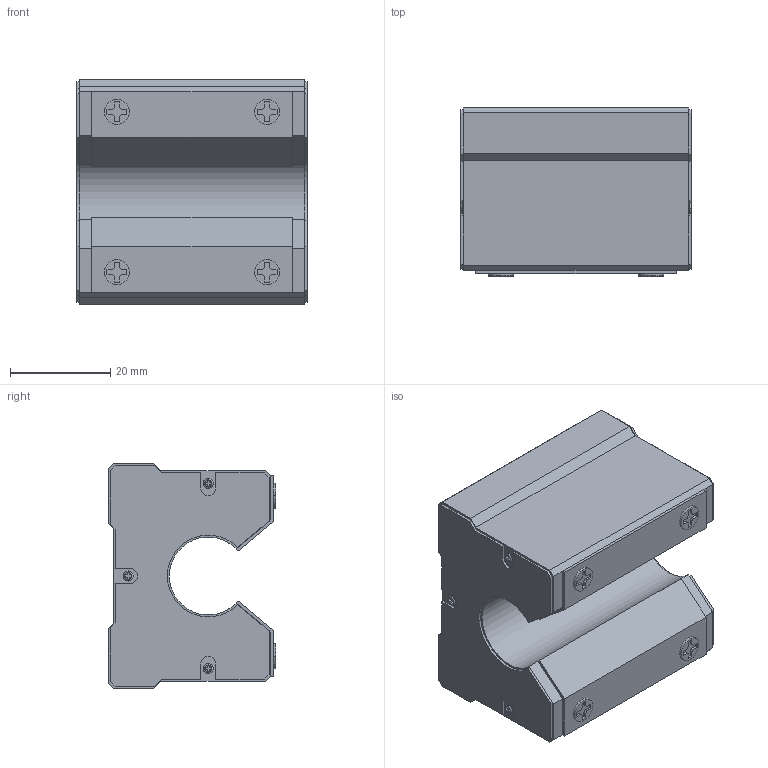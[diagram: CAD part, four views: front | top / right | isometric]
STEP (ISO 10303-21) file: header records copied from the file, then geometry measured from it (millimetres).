
FILE_DESCRIPTION (( 'STEP AP203' ), '1' );
FILE_NAME ('SME16UU.STEP', '2020-03-23T03:03:04', ( '' ), ( '' ), 'SwSTEP 2.0', 'SolidWorks 2017', '' );
FILE_SCHEMA (( 'CONFIG_CONTROL_DESIGN' ));
Length unit declared in the file: millimetre
Products named in the file (1): SME16UU
Bounding box: 46 x 33.5 x 45 mm (x, y, z)
Volume: 50510.7 mm3; surface area: 10911.8 mm2
Topology: 1 solids, 1 shells, 296 faces, 798 edges, 524 vertices
Faces by surface type: plane 239, cylinder 45, torus 12
Entity records: 9273 total; most frequent: CARTESIAN_POINT 1679, ORIENTED_EDGE 1596, DIRECTION 1490, EDGE_CURVE 798, VECTOR 676, LINE 676, VERTEX_POINT 524, AXIS2_PLACEMENT_3D 407
